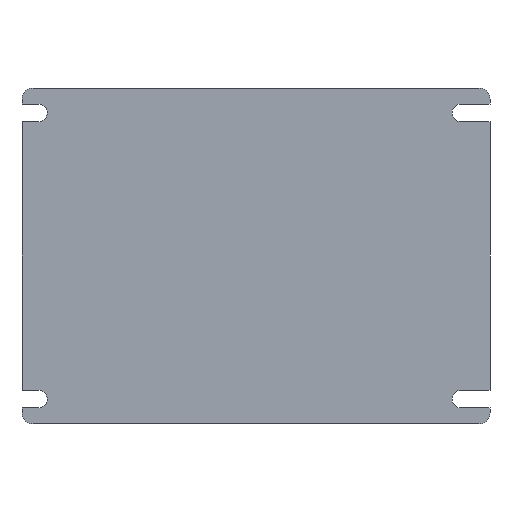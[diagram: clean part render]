
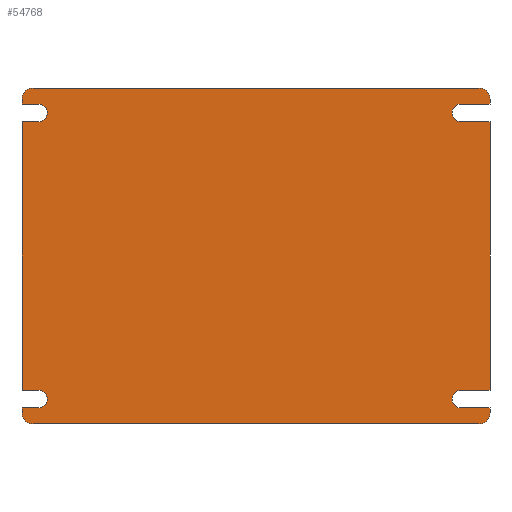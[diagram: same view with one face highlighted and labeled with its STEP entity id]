
A CAD part, front view. The second image highlights one B-rep face of the part: STEP entity #54768.
In plain terms, the highlighted planar face has unit normal (0, -1, 0).
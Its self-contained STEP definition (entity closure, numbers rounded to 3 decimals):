
#54025=CARTESIAN_POINT('',(-40.5,0.,28.5));
#54026=DIRECTION('',(0.,-1.,0.));
#54027=DIRECTION('',(0.,0.,1.));
#54028=AXIS2_PLACEMENT_3D('',#54025,#54026,#54027);
#54030=DIRECTION('',(1.,0.,0.));
#54031=VECTOR('',#54030,81.);
#54032=CARTESIAN_POINT('',(-40.5,0.,30.5));
#54033=LINE('',#54032,#54031);
#54034=CARTESIAN_POINT('',(40.5,0.,28.5));
#54035=DIRECTION('',(0.,-1.,0.));
#54036=DIRECTION('',(1.,0.,0.));
#54037=AXIS2_PLACEMENT_3D('',#54034,#54035,#54036);
#54039=DIRECTION('',(0.,0.,-1.));
#54040=VECTOR('',#54039,0.9);
#54041=CARTESIAN_POINT('',(42.5,0.,28.5));
#54042=LINE('',#54041,#54040);
#54043=DIRECTION('',(-1.,0.,0.));
#54044=VECTOR('',#54043,3.);
#54045=CARTESIAN_POINT('',(42.5,0.,27.6));
#54046=LINE('',#54045,#54044);
#54047=CARTESIAN_POINT('',(39.5,0.,26.));
#54048=DIRECTION('',(0.,1.,0.));
#54049=DIRECTION('',(0.,0.,-1.));
#54050=AXIS2_PLACEMENT_3D('',#54047,#54048,#54049);
#54052=DIRECTION('',(-1.,0.,0.));
#54053=VECTOR('',#54052,3.);
#54054=CARTESIAN_POINT('',(42.5,0.,24.4));
#54055=LINE('',#54054,#54053);
#54056=DIRECTION('',(0.,0.,-1.));
#54057=VECTOR('',#54056,48.8);
#54058=CARTESIAN_POINT('',(42.5,0.,24.4));
#54059=LINE('',#54058,#54057);
#54060=DIRECTION('',(-1.,0.,0.));
#54061=VECTOR('',#54060,3.);
#54062=CARTESIAN_POINT('',(42.5,0.,-24.4));
#54063=LINE('',#54062,#54061);
#54064=CARTESIAN_POINT('',(39.5,0.,-26.));
#54065=DIRECTION('',(0.,1.,0.));
#54066=DIRECTION('',(0.,0.,-1.));
#54067=AXIS2_PLACEMENT_3D('',#54064,#54065,#54066);
#54069=DIRECTION('',(-1.,0.,0.));
#54070=VECTOR('',#54069,3.);
#54071=CARTESIAN_POINT('',(42.5,0.,-27.6));
#54072=LINE('',#54071,#54070);
#54073=DIRECTION('',(0.,0.,-1.));
#54074=VECTOR('',#54073,0.9);
#54075=CARTESIAN_POINT('',(42.5,0.,-27.6));
#54076=LINE('',#54075,#54074);
#54077=CARTESIAN_POINT('',(40.5,0.,-28.5));
#54078=DIRECTION('',(0.,-1.,0.));
#54079=DIRECTION('',(0.,0.,-1.));
#54080=AXIS2_PLACEMENT_3D('',#54077,#54078,#54079);
#54082=DIRECTION('',(-1.,0.,0.));
#54083=VECTOR('',#54082,81.);
#54084=CARTESIAN_POINT('',(40.5,0.,-30.5));
#54085=LINE('',#54084,#54083);
#54086=CARTESIAN_POINT('',(-40.5,0.,-28.5));
#54087=DIRECTION('',(0.,-1.,0.));
#54088=DIRECTION('',(-1.,0.,0.));
#54089=AXIS2_PLACEMENT_3D('',#54086,#54087,#54088);
#54091=DIRECTION('',(0.,0.,1.));
#54092=VECTOR('',#54091,0.9);
#54093=CARTESIAN_POINT('',(-42.5,0.,-28.5));
#54094=LINE('',#54093,#54092);
#54095=DIRECTION('',(1.,0.,0.));
#54096=VECTOR('',#54095,5.3);
#54097=CARTESIAN_POINT('',(-42.5,0.,-27.6));
#54098=LINE('',#54097,#54096);
#54099=CARTESIAN_POINT('',(-37.2,0.,-26.));
#54100=DIRECTION('',(0.,1.,0.));
#54101=DIRECTION('',(0.,0.,1.));
#54102=AXIS2_PLACEMENT_3D('',#54099,#54100,#54101);
#54104=DIRECTION('',(1.,0.,0.));
#54105=VECTOR('',#54104,5.3);
#54106=CARTESIAN_POINT('',(-42.5,0.,-24.4));
#54107=LINE('',#54106,#54105);
#54108=DIRECTION('',(0.,0.,1.));
#54109=VECTOR('',#54108,48.8);
#54110=CARTESIAN_POINT('',(-42.5,0.,-24.4));
#54111=LINE('',#54110,#54109);
#54112=DIRECTION('',(1.,0.,0.));
#54113=VECTOR('',#54112,5.3);
#54114=CARTESIAN_POINT('',(-42.5,0.,24.4));
#54115=LINE('',#54114,#54113);
#54116=CARTESIAN_POINT('',(-37.2,0.,26.));
#54117=DIRECTION('',(0.,1.,0.));
#54118=DIRECTION('',(0.,0.,1.));
#54119=AXIS2_PLACEMENT_3D('',#54116,#54117,#54118);
#54121=DIRECTION('',(1.,0.,0.));
#54122=VECTOR('',#54121,5.3);
#54123=CARTESIAN_POINT('',(-42.5,0.,27.6));
#54124=LINE('',#54123,#54122);
#54125=DIRECTION('',(0.,0.,1.));
#54126=VECTOR('',#54125,0.9);
#54127=CARTESIAN_POINT('',(-42.5,0.,27.6));
#54128=LINE('',#54127,#54126);
#54553=CARTESIAN_POINT('',(39.5,0.,-27.6));
#54554=CARTESIAN_POINT('',(39.5,0.,-24.4));
#54555=VERTEX_POINT('',#54553);
#54556=VERTEX_POINT('',#54554);
#54557=CARTESIAN_POINT('',(42.5,0.,-24.4));
#54558=VERTEX_POINT('',#54557);
#54559=CARTESIAN_POINT('',(42.5,0.,-27.6));
#54560=VERTEX_POINT('',#54559);
#54561=CARTESIAN_POINT('',(42.5,0.,27.6));
#54562=CARTESIAN_POINT('',(39.5,0.,27.6));
#54563=VERTEX_POINT('',#54561);
#54564=VERTEX_POINT('',#54562);
#54565=CARTESIAN_POINT('',(42.5,0.,24.4));
#54566=CARTESIAN_POINT('',(39.5,0.,24.4));
#54567=VERTEX_POINT('',#54565);
#54568=VERTEX_POINT('',#54566);
#54585=CARTESIAN_POINT('',(-40.5,0.,30.5));
#54586=CARTESIAN_POINT('',(-42.5,0.,28.5));
#54587=VERTEX_POINT('',#54585);
#54588=VERTEX_POINT('',#54586);
#54593=CARTESIAN_POINT('',(-42.5,0.,-28.5));
#54594=CARTESIAN_POINT('',(-40.5,0.,-30.5));
#54595=VERTEX_POINT('',#54593);
#54596=VERTEX_POINT('',#54594);
#54601=CARTESIAN_POINT('',(40.5,0.,-30.5));
#54602=CARTESIAN_POINT('',(42.5,0.,-28.5));
#54603=VERTEX_POINT('',#54601);
#54604=VERTEX_POINT('',#54602);
#54609=CARTESIAN_POINT('',(42.5,0.,28.5));
#54610=CARTESIAN_POINT('',(40.5,0.,30.5));
#54611=VERTEX_POINT('',#54609);
#54612=VERTEX_POINT('',#54610);
#54617=CARTESIAN_POINT('',(-42.5,0.,-24.4));
#54618=CARTESIAN_POINT('',(-42.5,0.,24.4));
#54619=VERTEX_POINT('',#54617);
#54620=VERTEX_POINT('',#54618);
#54625=CARTESIAN_POINT('',(-42.5,0.,-27.6));
#54626=VERTEX_POINT('',#54625);
#54627=CARTESIAN_POINT('',(-42.5,0.,27.6));
#54628=VERTEX_POINT('',#54627);
#54697=CARTESIAN_POINT('',(-37.2,0.,27.6));
#54698=CARTESIAN_POINT('',(-37.2,0.,24.4));
#54699=VERTEX_POINT('',#54697);
#54700=VERTEX_POINT('',#54698);
#54701=CARTESIAN_POINT('',(-37.2,0.,-24.4));
#54702=CARTESIAN_POINT('',(-37.2,0.,-27.6));
#54703=VERTEX_POINT('',#54701);
#54704=VERTEX_POINT('',#54702);
#54713=CARTESIAN_POINT('',(0.,0.,0.));
#54714=DIRECTION('',(0.,1.,0.));
#54715=DIRECTION('',(1.,0.,0.));
#54716=AXIS2_PLACEMENT_3D('',#54713,#54714,#54715);
#54717=PLANE('',#54716);
#54719=ORIENTED_EDGE('',*,*,#54718,.F.);
#54721=ORIENTED_EDGE('',*,*,#54720,.T.);
#54723=ORIENTED_EDGE('',*,*,#54722,.F.);
#54725=ORIENTED_EDGE('',*,*,#54724,.T.);
#54727=ORIENTED_EDGE('',*,*,#54726,.T.);
#54729=ORIENTED_EDGE('',*,*,#54728,.F.);
#54731=ORIENTED_EDGE('',*,*,#54730,.F.);
#54733=ORIENTED_EDGE('',*,*,#54732,.T.);
#54735=ORIENTED_EDGE('',*,*,#54734,.T.);
#54737=ORIENTED_EDGE('',*,*,#54736,.F.);
#54739=ORIENTED_EDGE('',*,*,#54738,.F.);
#54741=ORIENTED_EDGE('',*,*,#54740,.T.);
#54743=ORIENTED_EDGE('',*,*,#54742,.F.);
#54745=ORIENTED_EDGE('',*,*,#54744,.T.);
#54747=ORIENTED_EDGE('',*,*,#54746,.F.);
#54749=ORIENTED_EDGE('',*,*,#54748,.T.);
#54751=ORIENTED_EDGE('',*,*,#54750,.T.);
#54753=ORIENTED_EDGE('',*,*,#54752,.F.);
#54755=ORIENTED_EDGE('',*,*,#54754,.F.);
#54757=ORIENTED_EDGE('',*,*,#54756,.T.);
#54759=ORIENTED_EDGE('',*,*,#54758,.T.);
#54761=ORIENTED_EDGE('',*,*,#54760,.F.);
#54763=ORIENTED_EDGE('',*,*,#54762,.F.);
#54765=ORIENTED_EDGE('',*,*,#54764,.T.);
#54766=EDGE_LOOP('',(#54719,#54721,#54723,#54725,#54727,#54729,#54731,#54733,
#54735,#54737,#54739,#54741,#54743,#54745,#54747,#54749,#54751,#54753,#54755,
#54757,#54759,#54761,#54763,#54765));
#54767=FACE_OUTER_BOUND('',#54766,.F.);
#54768=ADVANCED_FACE('',(#54767),#54717,.F.);
#54029=CIRCLE('',#54028,2.);
#54038=CIRCLE('',#54037,2.);
#54051=CIRCLE('',#54050,1.6);
#54068=CIRCLE('',#54067,1.6);
#54081=CIRCLE('',#54080,2.);
#54090=CIRCLE('',#54089,2.);
#54103=CIRCLE('',#54102,1.6);
#54120=CIRCLE('',#54119,1.6);
#54718=EDGE_CURVE('',#54587,#54588,#54029,.T.);
#54720=EDGE_CURVE('',#54587,#54612,#54033,.T.);
#54722=EDGE_CURVE('',#54611,#54612,#54038,.T.);
#54724=EDGE_CURVE('',#54611,#54563,#54042,.T.);
#54726=EDGE_CURVE('',#54563,#54564,#54046,.T.);
#54728=EDGE_CURVE('',#54568,#54564,#54051,.T.);
#54730=EDGE_CURVE('',#54567,#54568,#54055,.T.);
#54732=EDGE_CURVE('',#54567,#54558,#54059,.T.);
#54734=EDGE_CURVE('',#54558,#54556,#54063,.T.);
#54736=EDGE_CURVE('',#54555,#54556,#54068,.T.);
#54738=EDGE_CURVE('',#54560,#54555,#54072,.T.);
#54740=EDGE_CURVE('',#54560,#54604,#54076,.T.);
#54742=EDGE_CURVE('',#54603,#54604,#54081,.T.);
#54744=EDGE_CURVE('',#54603,#54596,#54085,.T.);
#54746=EDGE_CURVE('',#54595,#54596,#54090,.T.);
#54748=EDGE_CURVE('',#54595,#54626,#54094,.T.);
#54750=EDGE_CURVE('',#54626,#54704,#54098,.T.);
#54752=EDGE_CURVE('',#54703,#54704,#54103,.T.);
#54754=EDGE_CURVE('',#54619,#54703,#54107,.T.);
#54756=EDGE_CURVE('',#54619,#54620,#54111,.T.);
#54758=EDGE_CURVE('',#54620,#54700,#54115,.T.);
#54760=EDGE_CURVE('',#54699,#54700,#54120,.T.);
#54762=EDGE_CURVE('',#54628,#54699,#54124,.T.);
#54764=EDGE_CURVE('',#54628,#54588,#54128,.T.);
